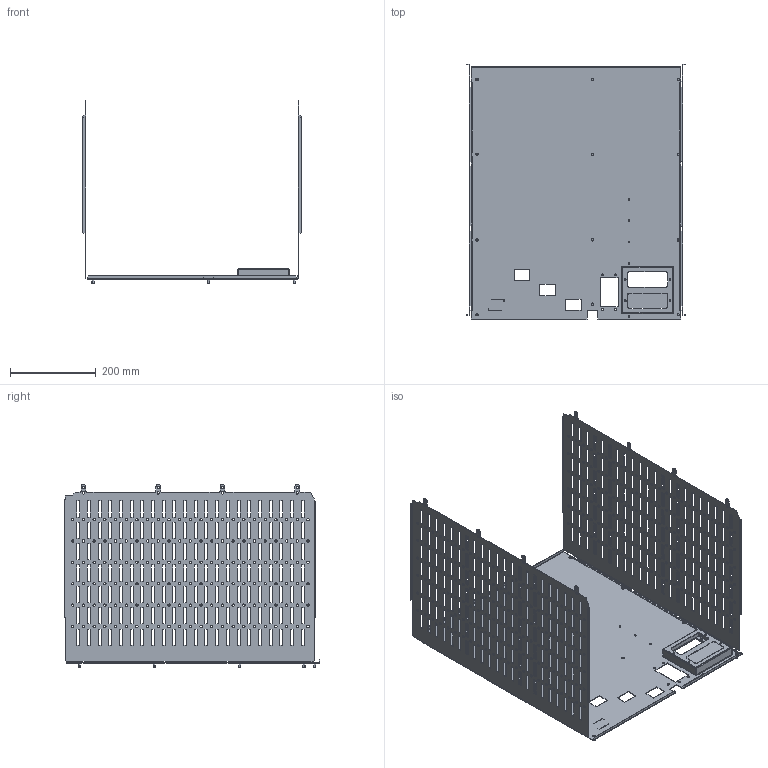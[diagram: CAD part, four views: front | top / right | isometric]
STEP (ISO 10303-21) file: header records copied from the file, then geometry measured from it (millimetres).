
FILE_DESCRIPTION(('CAx-IF Rec.Pracs.---Model Styling and Organization---1.2---2011-12-15','CAx-IF Rec.Pracs.---Geometric and Assembly Validation Properties---4.1---2014-06-16','CAx-IF Rec.Pracs.---PMI Polyline Presentation---2.0---2013-05-24'),'2;1');
FILE_NAME('R5M2W12M1A21.stp','2021-05-05T12:38:16+03:00',(''),(''),'STEP Interface 4.4 by CT CoreTechnologie','3D_Evolution4.4 by CT CoreTechnologie','');
FILE_SCHEMA(('AUTOMOTIVE_DESIGN { 1 0 10303 214 1 1 1 1 }'));
Length unit declared in the file: millimetre
Products named in the file (6): R5M2W12M1A21; RB.1568.00.00.0_-00; M5x8-DIN7500C_stright; RB.1285.00.00.0_-16; RB.1285.00.00.0_-17; RB.1257.00.00.0_-16
Assembly tree (20 placements, depth 2):
  R5M2W12M1A21
    RB.1568.00.00.0_-00
    M5x8-DIN7500C_stright  x16
    RB.1285.00.00.0_-16
    RB.1285.00.00.0_-17
    RB.1257.00.00.0_-16
Bounding box: 510 x 597.5 x 428.6 mm (x, y, z)
Surface area: 1428502.1 mm2 (no closed solid volume)
Topology: 0 solids, 22 shells, 2326 faces, 6881 edges, 4583 vertices
Faces by surface type: plane 1534, cylinder 784, bspline 8
Entity records: 79656 total; most frequent: CARTESIAN_POINT 13927, ORIENTED_EDGE 13582, DIRECTION 12837, EDGE_CURVE 6791, VECTOR 5275, LINE 5275, VERTEX_POINT 4523, AXIS2_PLACEMENT_3D 3781
